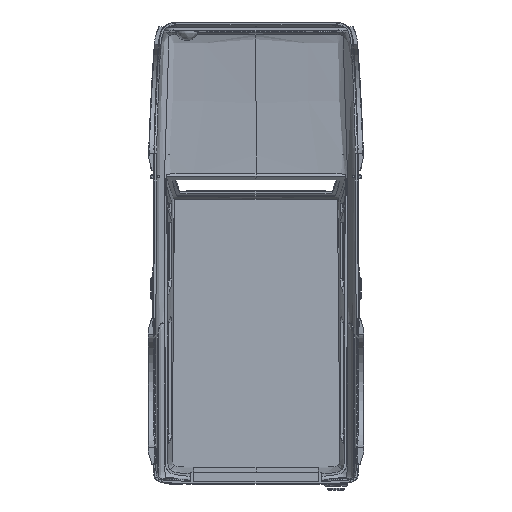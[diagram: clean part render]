
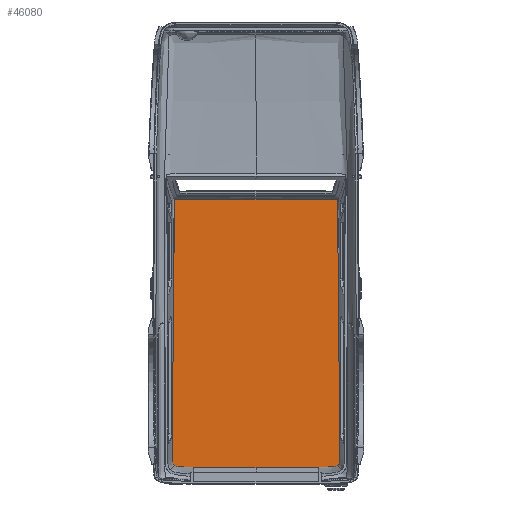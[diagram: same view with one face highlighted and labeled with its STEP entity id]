
A CAD part, front view. The second image highlights one B-rep face of the part: STEP entity #46080.
In plain terms, the highlighted planar face has unit normal (0, -1, 0).
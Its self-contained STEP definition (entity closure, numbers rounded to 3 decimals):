
#1885=B_SPLINE_CURVE_WITH_KNOTS('',3,(#81397,#81398,#81399,#81400,#81401,
#81402),.UNSPECIFIED.,.F.,.F.,(4,2,4),(-10.772,-4.593,
0.),.UNSPECIFIED.);
#1931=B_SPLINE_CURVE_WITH_KNOTS('',3,(#82338,#82339,#82340,#82341,#82342,
#82343,#82344,#82345,#82346,#82347),.UNSPECIFIED.,.F.,.F.,(4,2,2,2,4),(-2.318,
-2.,-0.83,-0.243,0.),
 .UNSPECIFIED.);
#2672=B_SPLINE_CURVE_WITH_KNOTS('',3,(#106309,#106310,#106311,#106312,#106313,
#106314,#106315,#106316,#106317,#106318,#106319,#106320,#106321,#106322,
#106323,#106324,#106325,#106326,#106327,#106328),.UNSPECIFIED.,.F.,.F.,
(4,2,2,2,2,2,2,2,2,4),(-20.558,-18.859,-17.161,
-13.728,-10.278,-4.978,-2.889,
-2.133,-0.854,0.),.UNSPECIFIED.);
#2922=B_SPLINE_CURVE_WITH_KNOTS('',3,(#114801,#114802,#114803,#114804,#114805,
#114806),.UNSPECIFIED.,.F.,.F.,(4,2,4),(-10.772,-4.593,
0.),.UNSPECIFIED.);
#2946=B_SPLINE_CURVE_WITH_KNOTS('',3,(#115590,#115591,#115592,#115593,#115594,
#115595,#115596,#115597,#115598,#115599),.UNSPECIFIED.,.F.,.F.,(4,2,2,2,
4),(-2.318,-2.,-0.83,-0.243,
0.),.UNSPECIFIED.);
#3239=B_SPLINE_CURVE_WITH_KNOTS('',3,(#121155,#121156,#121157,#121158,#121159,
#121160,#121161,#121162,#121163,#121164,#121165,#121166,#121167,#121168,
#121169,#121170,#121171,#121172,#121173,#121174),.UNSPECIFIED.,.F.,.F.,
(4,2,2,2,2,2,2,2,2,4),(-20.558,-18.859,-17.161,
-13.728,-10.278,-4.978,-2.889,
-2.133,-0.854,0.),.UNSPECIFIED.);
#7044=FACE_OUTER_BOUND('',#9938,.T.);
#9938=EDGE_LOOP('',(#40066,#40067,#40068,#40069,#40070,#40071));
#18928=VERTEX_POINT('',#81391);
#18929=VERTEX_POINT('',#81396);
#18972=VERTEX_POINT('',#82330);
#18973=VERTEX_POINT('',#82337);
#20616=VERTEX_POINT('',#114792);
#20637=VERTEX_POINT('',#115589);
#24417=EDGE_CURVE('',#18929,#18928,#1885,.T.);
#24463=EDGE_CURVE('',#18973,#18972,#1931,.T.);
#25719=EDGE_CURVE('',#18972,#18929,#2672,.T.);
#27132=EDGE_CURVE('',#20616,#18928,#2922,.T.);
#27156=EDGE_CURVE('',#18973,#20637,#2946,.T.);
#27518=EDGE_CURVE('',#20637,#20616,#3239,.T.);
#40066=ORIENTED_EDGE('',*,*,#27132,.F.);
#40067=ORIENTED_EDGE('',*,*,#27518,.F.);
#40068=ORIENTED_EDGE('',*,*,#27156,.F.);
#40069=ORIENTED_EDGE('',*,*,#24463,.T.);
#40070=ORIENTED_EDGE('',*,*,#25719,.T.);
#40071=ORIENTED_EDGE('',*,*,#24417,.T.);
#43853=PLANE('',#49874);
#46080=ADVANCED_FACE('',(#7044),#43853,.T.);
#49874=AXIS2_PLACEMENT_3D('',#121154,#58970,#58971);
#58970=DIRECTION('center_axis',(0.,-1.,0.));
#58971=DIRECTION('ref_axis',(1.,0.,0.));
#81391=CARTESIAN_POINT('',(0.,189.475,46.288));
#81396=CARTESIAN_POINT('',(85.687,189.475,45.727));
#81397=CARTESIAN_POINT('Ctrl Pts',(85.687,189.475,45.727));
#81398=CARTESIAN_POINT('Ctrl Pts',(70.152,189.475,46.347));
#81399=CARTESIAN_POINT('Ctrl Pts',(66.527,189.475,46.288));
#81400=CARTESIAN_POINT('Ctrl Pts',(30.62,189.475,46.288));
#81401=CARTESIAN_POINT('Ctrl Pts',(15.31,189.475,46.288));
#81402=CARTESIAN_POINT('Ctrl Pts',(0.,189.475,
46.288));
#82330=CARTESIAN_POINT('',(85.768,189.475,-233.937));
#82337=CARTESIAN_POINT('',(0.,189.475,-236.563));
#82338=CARTESIAN_POINT('Ctrl Pts',(0.,189.475,
-236.563));
#82339=CARTESIAN_POINT('Ctrl Pts',(24.136,189.475,-236.563));
#82340=CARTESIAN_POINT('Ctrl Pts',(30.924,189.475,-236.563));
#82341=CARTESIAN_POINT('Ctrl Pts',(62.951,189.475,-236.569));
#82342=CARTESIAN_POINT('Ctrl Pts',(68.394,189.475,-236.647));
#82343=CARTESIAN_POINT('Ctrl Pts',(78.284,189.475,-235.94));
#82344=CARTESIAN_POINT('Ctrl Pts',(81.168,189.475,-235.564));
#82345=CARTESIAN_POINT('Ctrl Pts',(84.216,189.475,-234.686));
#82346=CARTESIAN_POINT('Ctrl Pts',(85.076,189.475,-234.36));
#82347=CARTESIAN_POINT('Ctrl Pts',(85.768,189.475,-233.937));
#106309=CARTESIAN_POINT('Ctrl Pts',(85.768,189.475,-233.937));
#106310=CARTESIAN_POINT('Ctrl Pts',(86.233,189.475,-233.653));
#106311=CARTESIAN_POINT('Ctrl Pts',(86.604,189.475,-233.337));
#106312=CARTESIAN_POINT('Ctrl Pts',(87.195,189.475,-232.576));
#106313=CARTESIAN_POINT('Ctrl Pts',(87.41,189.475,-232.139));
#106314=CARTESIAN_POINT('Ctrl Pts',(87.887,189.475,-230.566));
#106315=CARTESIAN_POINT('Ctrl Pts',(87.975,189.475,-229.169));
#106316=CARTESIAN_POINT('Ctrl Pts',(88.028,189.475,-225.235));
#106317=CARTESIAN_POINT('Ctrl Pts',(88.018,189.475,-219.716));
#106318=CARTESIAN_POINT('Ctrl Pts',(88.011,189.475,-191.731));
#106319=CARTESIAN_POINT('Ctrl Pts',(87.989,189.475,-174.017));
#106320=CARTESIAN_POINT('Ctrl Pts',(87.96,189.475,-152.452));
#106321=CARTESIAN_POINT('Ctrl Pts',(87.919,189.475,-102.258));
#106322=CARTESIAN_POINT('Ctrl Pts',(87.79,189.475,-54.362));
#106323=CARTESIAN_POINT('Ctrl Pts',(87.701,189.475,-24.118));
#106324=CARTESIAN_POINT('Ctrl Pts',(87.555,189.475,13.204));
#106325=CARTESIAN_POINT('Ctrl Pts',(87.426,189.475,26.627));
#106326=CARTESIAN_POINT('Ctrl Pts',(86.81,189.475,39.372));
#106327=CARTESIAN_POINT('Ctrl Pts',(86.407,189.475,42.973));
#106328=CARTESIAN_POINT('Ctrl Pts',(85.687,189.475,45.727));
#114792=CARTESIAN_POINT('',(-85.687,189.475,45.727));
#114801=CARTESIAN_POINT('Ctrl Pts',(-85.687,189.475,
45.727));
#114802=CARTESIAN_POINT('Ctrl Pts',(-70.152,189.475,
46.347));
#114803=CARTESIAN_POINT('Ctrl Pts',(-66.527,189.475,
46.288));
#114804=CARTESIAN_POINT('Ctrl Pts',(-30.62,189.475,
46.288));
#114805=CARTESIAN_POINT('Ctrl Pts',(-15.31,189.475,
46.288));
#114806=CARTESIAN_POINT('Ctrl Pts',(0.,189.475,
46.288));
#115589=CARTESIAN_POINT('',(-85.768,189.475,-233.937));
#115590=CARTESIAN_POINT('Ctrl Pts',(0.,189.475,
-236.563));
#115591=CARTESIAN_POINT('Ctrl Pts',(-24.136,189.475,
-236.563));
#115592=CARTESIAN_POINT('Ctrl Pts',(-30.924,189.475,
-236.563));
#115593=CARTESIAN_POINT('Ctrl Pts',(-62.951,189.475,
-236.569));
#115594=CARTESIAN_POINT('Ctrl Pts',(-68.394,189.475,
-236.647));
#115595=CARTESIAN_POINT('Ctrl Pts',(-78.284,189.475,
-235.94));
#115596=CARTESIAN_POINT('Ctrl Pts',(-81.168,189.475,
-235.564));
#115597=CARTESIAN_POINT('Ctrl Pts',(-84.216,189.475,-234.686));
#115598=CARTESIAN_POINT('Ctrl Pts',(-85.076,189.475,
-234.36));
#115599=CARTESIAN_POINT('Ctrl Pts',(-85.768,189.475,
-233.937));
#121154=CARTESIAN_POINT('Origin',(0.,189.475,
-94.76));
#121155=CARTESIAN_POINT('Ctrl Pts',(-85.768,189.475,
-233.937));
#121156=CARTESIAN_POINT('Ctrl Pts',(-86.233,189.475,-233.653));
#121157=CARTESIAN_POINT('Ctrl Pts',(-86.604,189.475,-233.337));
#121158=CARTESIAN_POINT('Ctrl Pts',(-87.195,189.475,-232.576));
#121159=CARTESIAN_POINT('Ctrl Pts',(-87.41,189.475,
-232.139));
#121160=CARTESIAN_POINT('Ctrl Pts',(-87.887,189.475,
-230.566));
#121161=CARTESIAN_POINT('Ctrl Pts',(-87.975,189.475,
-229.169));
#121162=CARTESIAN_POINT('Ctrl Pts',(-88.028,189.475,
-225.235));
#121163=CARTESIAN_POINT('Ctrl Pts',(-88.018,189.475,
-219.716));
#121164=CARTESIAN_POINT('Ctrl Pts',(-88.011,189.475,
-191.731));
#121165=CARTESIAN_POINT('Ctrl Pts',(-87.989,189.475,
-174.017));
#121166=CARTESIAN_POINT('Ctrl Pts',(-87.96,189.475,
-152.452));
#121167=CARTESIAN_POINT('Ctrl Pts',(-87.919,189.475,
-102.258));
#121168=CARTESIAN_POINT('Ctrl Pts',(-87.79,189.475,
-54.362));
#121169=CARTESIAN_POINT('Ctrl Pts',(-87.701,189.475,
-24.118));
#121170=CARTESIAN_POINT('Ctrl Pts',(-87.555,189.475,
13.204));
#121171=CARTESIAN_POINT('Ctrl Pts',(-87.426,189.475,
26.627));
#121172=CARTESIAN_POINT('Ctrl Pts',(-86.81,189.475,
39.372));
#121173=CARTESIAN_POINT('Ctrl Pts',(-86.407,189.475,42.973));
#121174=CARTESIAN_POINT('Ctrl Pts',(-85.687,189.475,
45.727));
